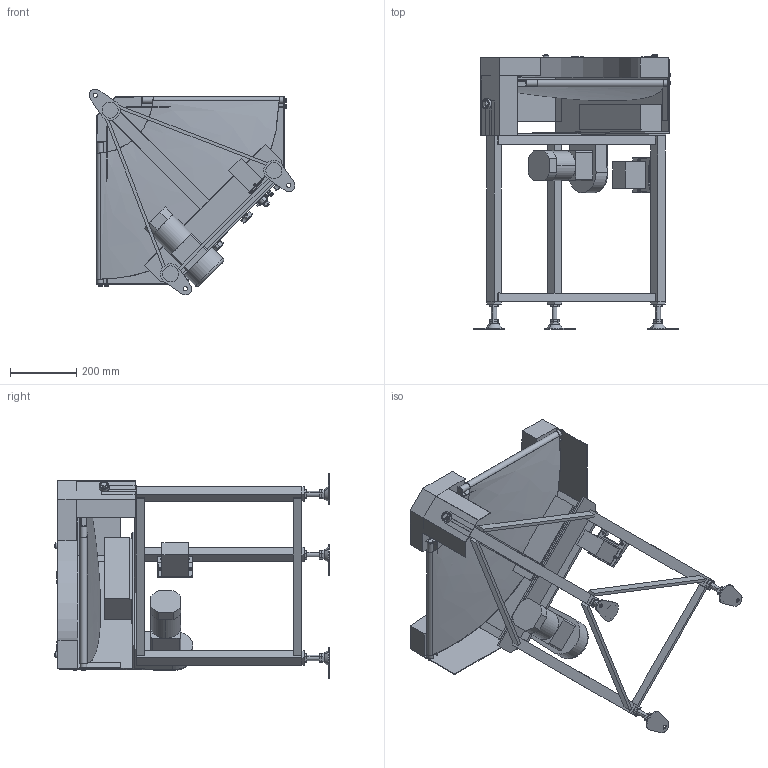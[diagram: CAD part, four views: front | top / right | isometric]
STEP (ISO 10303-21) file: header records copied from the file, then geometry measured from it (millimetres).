
FILE_DESCRIPTION( (''), '2;1');
FILE_NAME ('GBC-UD-309-300-90°-L-K-60.stp','2025-02-03T09:04:29',(''),(''),'spGate 20.6.2 (****-****-****-****)','','');
FILE_SCHEMA (('AUTOMOTIVE_DESIGN'));
Length unit declared in the file: millimetre
Products named in the file (59): NewModel; TEMP_X_T-prt0; TEMP_X_T-prt1; TEMP_X_T-prt2; TEMP_X_T-prt3; TEMP_X_T-prt4; TEMP_X_T-prt5; TEMP_X_T-prt6; TEMP_X_T-prt7; TEMP_X_T-prt8; TEMP_X_T-prt9; TEMP_X_T-prt10; TEMP_X_T-prt11; TEMP_X_T-prt12; TEMP_X_T-prt13; TEMP_X_T-prt14; TEMP_X_T-prt15; TEMP_X_T-prt16; TEMP_X_T-prt17; TEMP_X_T-prt18; TEMP_X_T-prt19; TEMP_X_T-prt20; TEMP_X_T-prt21; TEMP_X_T-prt22; TEMP_X_T-prt23; TEMP_X_T-prt24; TEMP_X_T-prt25; TEMP_X_T-prt26; TEMP_X_T-prt27; TEMP_X_T-prt28; TEMP_X_T-prt29; TEMP_X_T-prt30; TEMP_X_T-prt31; TEMP_X_T-prt32; TEMP_X_T-prt33; TEMP_X_T-prt34; TEMP_X_T-prt35; TEMP_X_T-prt36; TEMP_X_T-prt37; TEMP_X_T-prt38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
Assembly tree (58 placements, depth 2):
  NewModel
    TEMP_X_T-prt0
    TEMP_X_T-prt1
    TEMP_X_T-prt2
    TEMP_X_T-prt3
    TEMP_X_T-prt4
    TEMP_X_T-prt5
    TEMP_X_T-prt6
    TEMP_X_T-prt7
    TEMP_X_T-prt8
    TEMP_X_T-prt9
    TEMP_X_T-prt10
    TEMP_X_T-prt11
    TEMP_X_T-prt12
    TEMP_X_T-prt13
    TEMP_X_T-prt14
    TEMP_X_T-prt15
    TEMP_X_T-prt16
    TEMP_X_T-prt17
    TEMP_X_T-prt18
    TEMP_X_T-prt19
    TEMP_X_T-prt20
    TEMP_X_T-prt21
    TEMP_X_T-prt22
    TEMP_X_T-prt23
    TEMP_X_T-prt24
    TEMP_X_T-prt25
    TEMP_X_T-prt26
    TEMP_X_T-prt27
    TEMP_X_T-prt28
    TEMP_X_T-prt29
    TEMP_X_T-prt30
    TEMP_X_T-prt31
    TEMP_X_T-prt32
    TEMP_X_T-prt33
    TEMP_X_T-prt34
    TEMP_X_T-prt35
    TEMP_X_T-prt36
    TEMP_X_T-prt37
    TEMP_X_T-prt38
    TEMP_X_T-prt39
    TEMP_X_T-prt40
    TEMP_X_T-prt41
    TEMP_X_T-prt42
    TEMP_X_T-prt43
    TEMP_X_T-prt44
    TEMP_X_T-prt45
    TEMP_X_T-prt46
    TEMP_X_T-prt47
    TEMP_X_T-prt48
    TEMP_X_T-prt49
    TEMP_X_T-prt50
    TEMP_X_T-prt51
    TEMP_X_T-prt52
    TEMP_X_T-prt53
    TEMP_X_T-prt54
    TEMP_X_T-prt55
    TEMP_X_T-prt56
    TEMP_X_T-prt57
Bounding box: 620.53 x 827.92 x 620.53 mm (x, y, z)
Volume: 16737780.1 mm3; surface area: 3153997.2 mm2
Topology: 58 solids, 58 shells, 1157 faces, 2678 edges, 1705 vertices
Faces by surface type: plane 680, cylinder 288, bspline 185, sphere 4
Entity records: 61077 total; most frequent: CARTESIAN_POINT 12141, ORIENTED_EDGE 5340, DIRECTION 5076, COLOUR_RGB 3885, PRESENTATION_STYLE_ASSIGNMENT 3885, STYLED_ITEM 3885, EDGE_CURVE 2670, DRAUGHTING_PRE_DEFINED_CURVE_FONT 2670
